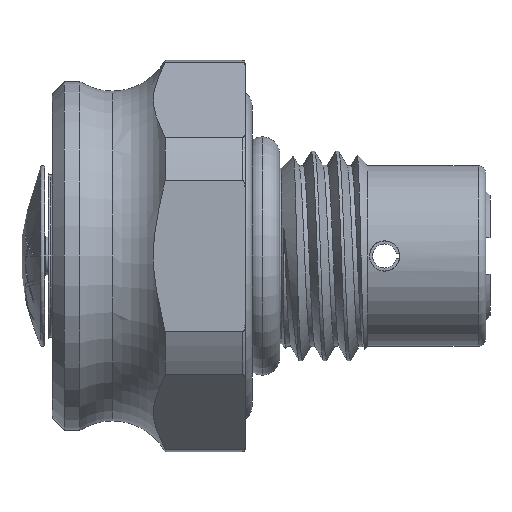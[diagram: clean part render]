
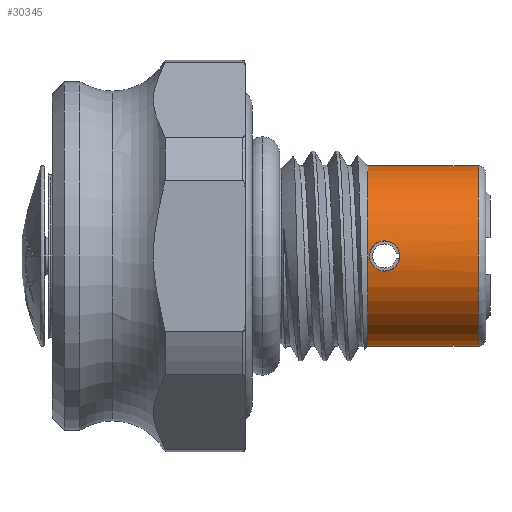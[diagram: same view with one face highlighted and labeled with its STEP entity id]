
A CAD part, front view. The second image highlights one B-rep face of the part: STEP entity #30345.
In plain terms, the highlighted cylindrical face has radius 4.763 mm (diameter 9.525 mm), a partial arc.
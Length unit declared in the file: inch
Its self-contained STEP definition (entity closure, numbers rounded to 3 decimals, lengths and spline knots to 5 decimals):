
#113 = DIRECTION ( 'NONE',  ( 0., 0., 1. ) ) ;
#316 = DIRECTION ( 'NONE',  ( 0., 0., 1. ) ) ;
#1829 = CARTESIAN_POINT ( 'NONE',  ( 0.3175, -0.18686, 0.01591 ) ) ;
#2218 = CARTESIAN_POINT ( 'NONE',  ( 0.29, -0.18484, -0.0315 ) ) ;
#2347 = CARTESIAN_POINT ( 'NONE',  ( 0.25933, -0.18736, -0.00828 ) ) ;
#2389 = CARTESIAN_POINT ( 'NONE',  ( -0.4, 0., -0.1875 ) ) ;
#2858 = EDGE_CURVE ( 'NONE', #18414, #7006, #3441, .T. ) ;
#3441 = LINE ( 'NONE', #2389, #25725 ) ;
#4904 = CARTESIAN_POINT ( 'NONE',  ( 0.3215, -0.1875, 0.00418 ) ) ;
#5014 = DIRECTION ( 'NONE',  ( -1., 0., 0. ) ) ;
#5386 = EDGE_CURVE ( 'NONE', #12641, #20671, #23667, .T. ) ;
#5422 = CARTESIAN_POINT ( 'NONE',  ( 0.2585, -0.1875, 0.00411 ) ) ;
#6490 = EDGE_LOOP ( 'NONE', ( #23536, #11969, #37115, #17511 ) ) ;
#6830 = CARTESIAN_POINT ( 'NONE',  ( 0.255, 0., 0.1875 ) ) ;
#7006 = VERTEX_POINT ( 'NONE', #8317 ) ;
#7637 = FACE_BOUND ( 'NONE', #20390, .T. ) ;
#7821 = CARTESIAN_POINT ( 'NONE',  ( 0.29827, -0.18498, 0.03067 ) ) ;
#7958 = CARTESIAN_POINT ( 'NONE',  ( 0.32068, -0.18736, -0.00824 ) ) ;
#8168 = VECTOR ( 'NONE', #38591, 39.37008 ) ;
#8317 = CARTESIAN_POINT ( 'NONE',  ( 0.255, 0., -0.1875 ) ) ;
#8472 = CARTESIAN_POINT ( 'NONE',  ( 0.26248, -0.18687, 0.01587 ) ) ;
#10872 = CARTESIAN_POINT ( 'NONE',  ( 0.29411, -0.18484, 0.0315 ) ) ;
#10983 = CARTESIAN_POINT ( 'NONE',  ( 0.31518, -0.18652, -0.01936 ) ) ;
#11127 = ORIENTED_EDGE ( 'NONE', *, *, #19325, .T. ) ;
#11165 = AXIS2_PLACEMENT_3D ( 'NONE', #36624, #18498, #316 ) ;
#11488 = CARTESIAN_POINT ( 'NONE',  ( 0.27066, -0.18582, 0.02521 ) ) ;
#11969 = ORIENTED_EDGE ( 'NONE', *, *, #13787, .T. ) ;
#12641 = VERTEX_POINT ( 'NONE', #23848 ) ;
#13787 = EDGE_CURVE ( 'NONE', #18414, #20730, #20350, .T. ) ;
#14022 = CARTESIAN_POINT ( 'NONE',  ( 0.29834, -0.18484, -0.0315 ) ) ;
#14393 = CARTESIAN_POINT ( 'NONE',  ( 0.28174, -0.18498, -0.03068 ) ) ;
#14530 = CARTESIAN_POINT ( 'NONE',  ( 0.28175, -0.18498, 0.03068 ) ) ;
#14578 = DIRECTION ( 'NONE',  ( -1., 0., 0. ) ) ;
#16623 = FACE_OUTER_BOUND ( 'NONE', #6490, .T. ) ;
#16945 = CARTESIAN_POINT ( 'NONE',  ( 0.30585, -0.18547, 0.02753 ) ) ;
#17459 = CARTESIAN_POINT ( 'NONE',  ( 0.27062, -0.18583, -0.02517 ) ) ;
#17511 = ORIENTED_EDGE ( 'NONE', *, *, #24209, .F. ) ;
#17588 = CARTESIAN_POINT ( 'NONE',  ( 0.29, -0.18484, 0.0315 ) ) ;
#17979 = CIRCLE ( 'NONE', #25292, 0.1875 ) ;
#18297 = DIRECTION ( 'NONE',  ( -1., 0., 0. ) ) ;
#18414 = VERTEX_POINT ( 'NONE', #33827 ) ;
#18498 = DIRECTION ( 'NONE',  ( -1., 0., 0. ) ) ;
#19325 = EDGE_CURVE ( 'NONE', #20671, #12641, #21914, .T. ) ;
#19700 = EDGE_CURVE ( 'NONE', #20730, #29753, #33248, .T. ) ;
#19990 = CARTESIAN_POINT ( 'NONE',  ( 0.31516, -0.18652, 0.01939 ) ) ;
#20335 = CARTESIAN_POINT ( 'NONE',  ( -0.4, 0., 0.1875 ) ) ;
#20350 = CIRCLE ( 'NONE', #11165, 0.1875 ) ;
#20390 = EDGE_LOOP ( 'NONE', ( #11127, #21288 ) ) ;
#20491 = CARTESIAN_POINT ( 'NONE',  ( 0.26248, -0.18687, -0.01586 ) ) ;
#20671 = VERTEX_POINT ( 'NONE', #28907 ) ;
#20730 = VERTEX_POINT ( 'NONE', #35214 ) ;
#21288 = ORIENTED_EDGE ( 'NONE', *, *, #5386, .T. ) ;
#21914 = B_SPLINE_CURVE_WITH_KNOTS ( 'NONE', 3,
 ( #2218, #26448, #14393, #35580, #17459, #38618, #20491, #2347, #23526, #5422, #26575, #8472, #29657, #11488, #32667, #14530, #35718, #17588 ),
 .UNSPECIFIED., .F., .F.,
 ( 4, 2, 2, 2, 2, 2, 2, 2, 4 ),
 ( 0., 0.00031, 0.00063, 0.00094, 0.00125, 0.00157, 0.00188, 0.00219, 0.00251 ),
 .UNSPECIFIED. ) ;
#23015 = CARTESIAN_POINT ( 'NONE',  ( 0.32067, -0.18736, 0.00827 ) ) ;
#23261 = CARTESIAN_POINT ( 'NONE',  ( -0.4, 0., 0. ) ) ;
#23526 = CARTESIAN_POINT ( 'NONE',  ( 0.2585, -0.1875, -0.00413 ) ) ;
#23536 = ORIENTED_EDGE ( 'NONE', *, *, #2858, .F. ) ;
#23667 = B_SPLINE_CURVE_WITH_KNOTS ( 'NONE', 3,
 ( #35069, #10872, #7821, #16945, #38115, #19990, #1829, #23015, #4904, #26074, #7958, #29144, #10983, #32152, #14022, #35194 ),
 .UNSPECIFIED., .F., .F.,
 ( 4, 2, 2, 2, 2, 2, 2, 4 ),
 ( 0.00251, 0.00282, 0.00313, 0.00345, 0.00376, 0.00407, 0.00438, 0.00501 ),
 .UNSPECIFIED. ) ;
#23848 = CARTESIAN_POINT ( 'NONE',  ( 0.29, -0.18484, 0.0315 ) ) ;
#24209 = EDGE_CURVE ( 'NONE', #7006, #29753, #17979, .T. ) ;
#25292 = AXIS2_PLACEMENT_3D ( 'NONE', #36428, #18297, #113 ) ;
#25725 = VECTOR ( 'NONE', #14578, 39.37008 ) ;
#26074 = CARTESIAN_POINT ( 'NONE',  ( 0.3215, -0.1875, -0.00414 ) ) ;
#26448 = CARTESIAN_POINT ( 'NONE',  ( 0.28583, -0.18484, -0.0315 ) ) ;
#26575 = CARTESIAN_POINT ( 'NONE',  ( 0.25932, -0.18736, 0.00824 ) ) ;
#26691 = AXIS2_PLACEMENT_3D ( 'NONE', #23261, #5014, #38477 ) ;
#28907 = CARTESIAN_POINT ( 'NONE',  ( 0.29, -0.18484, -0.0315 ) ) ;
#29144 = CARTESIAN_POINT ( 'NONE',  ( 0.31752, -0.18687, -0.01586 ) ) ;
#29657 = CARTESIAN_POINT ( 'NONE',  ( 0.26479, -0.18652, 0.01934 ) ) ;
#29753 = VERTEX_POINT ( 'NONE', #6830 ) ;
#30345 = ADVANCED_FACE ( 'NONE', ( #16623, #7637 ), #35064, .T. ) ;
#32152 = CARTESIAN_POINT ( 'NONE',  ( 0.3065, -0.18548, -0.02806 ) ) ;
#32667 = CARTESIAN_POINT ( 'NONE',  ( 0.27413, -0.18548, 0.02752 ) ) ;
#33248 = LINE ( 'NONE', #20335, #8168 ) ;
#33827 = CARTESIAN_POINT ( 'NONE',  ( 0.484, 0., -0.1875 ) ) ;
#35064 = CYLINDRICAL_SURFACE ( 'NONE', #26691, 0.1875 ) ;
#35069 = CARTESIAN_POINT ( 'NONE',  ( 0.29, -0.18484, 0.0315 ) ) ;
#35194 = CARTESIAN_POINT ( 'NONE',  ( 0.29, -0.18484, -0.0315 ) ) ;
#35214 = CARTESIAN_POINT ( 'NONE',  ( 0.484, 0., 0.1875 ) ) ;
#35580 = CARTESIAN_POINT ( 'NONE',  ( 0.27411, -0.18548, -0.02751 ) ) ;
#35718 = CARTESIAN_POINT ( 'NONE',  ( 0.28588, -0.18484, 0.0315 ) ) ;
#36428 = CARTESIAN_POINT ( 'NONE',  ( 0.255, 0., 0. ) ) ;
#36624 = CARTESIAN_POINT ( 'NONE',  ( 0.484, 0., 0. ) ) ;
#37115 = ORIENTED_EDGE ( 'NONE', *, *, #19700, .T. ) ;
#38115 = CARTESIAN_POINT ( 'NONE',  ( 0.30935, -0.18582, 0.02519 ) ) ;
#38477 = DIRECTION ( 'NONE',  ( 0., 0., 1. ) ) ;
#38591 = DIRECTION ( 'NONE',  ( -1., 0., 0. ) ) ;
#38618 = CARTESIAN_POINT ( 'NONE',  ( 0.26482, -0.18652, -0.01937 ) ) ;
